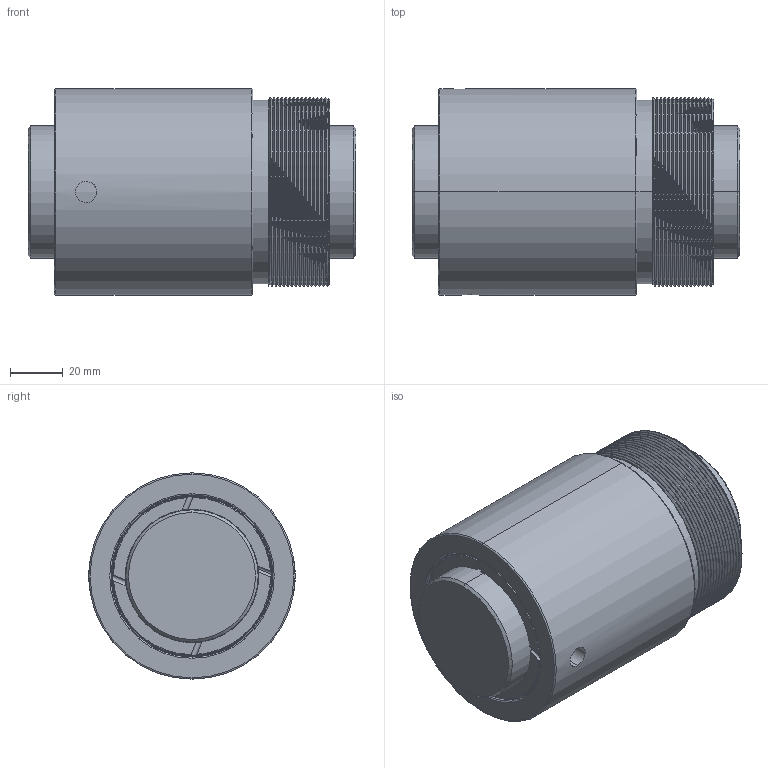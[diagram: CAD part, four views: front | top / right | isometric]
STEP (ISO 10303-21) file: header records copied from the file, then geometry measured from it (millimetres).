
FILE_DESCRIPTION (( 'STEP AP203' ), '1' );
FILE_NAME ('BSHR05010T4-C.STEP', '2020-06-17T07:07:12', ( '' ), ( '' ), 'SwSTEP 2.0', 'SolidWorks 2013', '' );
FILE_SCHEMA (( 'CONFIG_CONTROL_DESIGN' ));
Length unit declared in the file: millimetre
Products named in the file (1): BSHR05010T4-C
Bounding box: 124 x 78 x 78 mm (x, y, z)
Volume: 483132.4 mm3; surface area: 81161.8 mm2
Topology: 2 solids, 2 shells, 161 faces, 413 edges, 263 vertices
Faces by surface type: cylinder 105, torus 26, plane 20, cone 8, bspline 2
Entity records: 7310 total; most frequent: CARTESIAN_POINT 3700, ORIENTED_EDGE 822, DIRECTION 679, EDGE_CURVE 411, AXIS2_PLACEMENT_3D 284, VERTEX_POINT 263, EDGE_LOOP 174, ADVANCED_FACE 161
